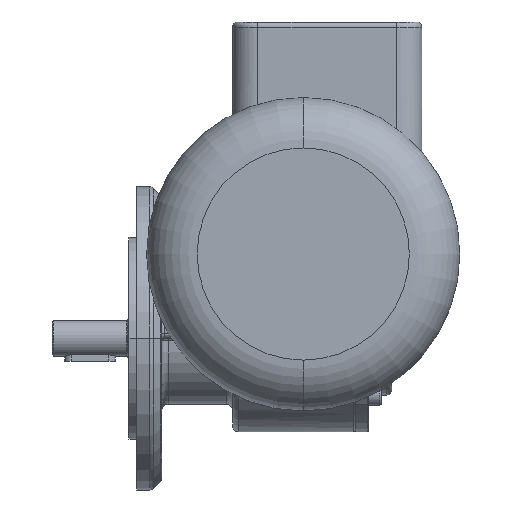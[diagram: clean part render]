
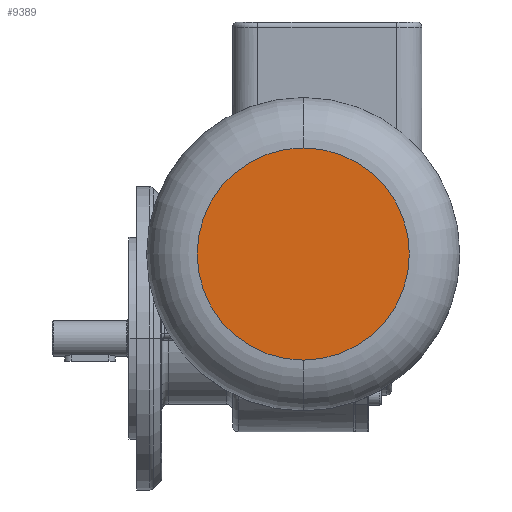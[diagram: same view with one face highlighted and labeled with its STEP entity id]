
A CAD part, top view. The second image highlights one B-rep face of the part: STEP entity #9389.
In plain terms, the highlighted planar face has unit normal (0, 0, 1).
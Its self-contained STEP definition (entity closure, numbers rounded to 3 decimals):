
#1051 = CIRCLE ( 'NONE', #2724, 42. ) ;
#1064 = VERTEX_POINT ( 'NONE', #8631 ) ;
#1426 = ORIENTED_EDGE ( 'NONE', *, *, #10253, .T. ) ;
#2531 = AXIS2_PLACEMENT_3D ( 'NONE', #3693, #3549, #7574 ) ;
#2724 = AXIS2_PLACEMENT_3D ( 'NONE', #3936, #8042, #4994 ) ;
#2760 = DIRECTION ( 'NONE',  ( 0., 0., -1. ) ) ;
#3549 = DIRECTION ( 'NONE',  ( 0., 0., 1. ) ) ;
#3693 = CARTESIAN_POINT ( 'NONE',  ( -82.08, 42.407, 233.5 ) ) ;
#3873 = FACE_OUTER_BOUND ( 'NONE', #5843, .T. ) ;
#3936 = CARTESIAN_POINT ( 'NONE',  ( -82.08, 42.407, 233.5 ) ) ;
#4171 = CARTESIAN_POINT ( 'NONE',  ( -82.08, 42.407, 233.5 ) ) ;
#4829 = CARTESIAN_POINT ( 'NONE',  ( -82.08, 84.407, 233.5 ) ) ;
#4994 = DIRECTION ( 'NONE',  ( 0., 1., 0. ) ) ;
#5843 = EDGE_LOOP ( 'NONE', ( #1426, #10653 ) ) ;
#5987 = VERTEX_POINT ( 'NONE', #4829 ) ;
#7574 = DIRECTION ( 'NONE',  ( 0., 1., 0. ) ) ;
#8042 = DIRECTION ( 'NONE',  ( 0., 0., 1. ) ) ;
#8144 = DIRECTION ( 'NONE',  ( 0., 1., 0. ) ) ;
#8631 = CARTESIAN_POINT ( 'NONE',  ( -82.08, 0.407, 233.5 ) ) ;
#9389 = ADVANCED_FACE ( 'NONE', ( #3873 ), #11271, .F. ) ;
#9528 = CIRCLE ( 'NONE', #2531, 42. ) ;
#10253 = EDGE_CURVE ( 'NONE', #5987, #1064, #1051, .T. ) ;
#10653 = ORIENTED_EDGE ( 'NONE', *, *, #11008, .T. ) ;
#11008 = EDGE_CURVE ( 'NONE', #1064, #5987, #9528, .T. ) ;
#11221 = AXIS2_PLACEMENT_3D ( 'NONE', #4171, #2760, #8144 ) ;
#11271 = PLANE ( 'NONE',  #11221 ) ;
